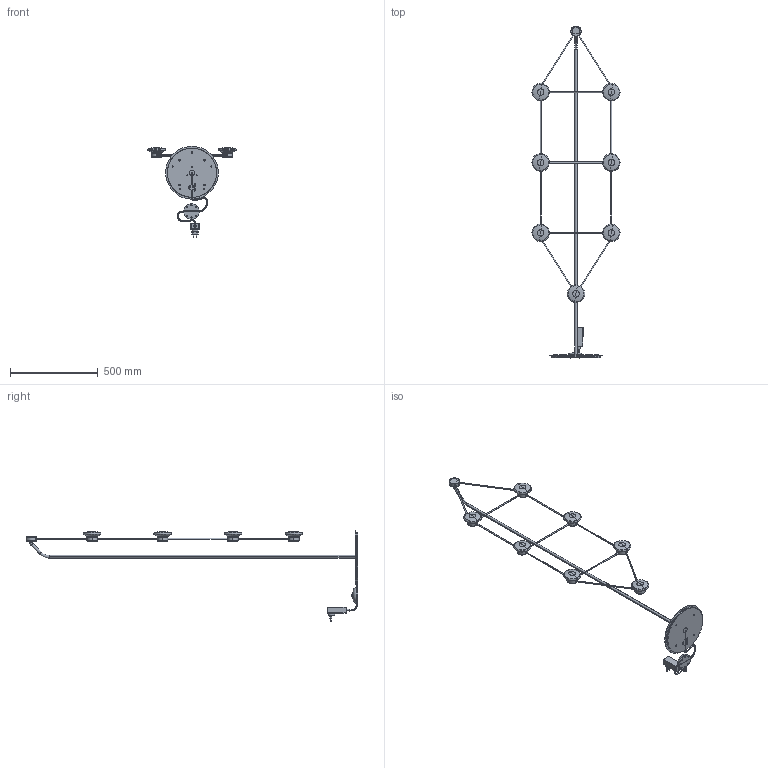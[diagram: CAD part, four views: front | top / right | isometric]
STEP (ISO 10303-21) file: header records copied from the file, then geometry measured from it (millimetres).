
FILE_DESCRIPTION (( 'STEP AP203' ), '1' );
FILE_NAME ('FBN08.LP01.AF01.R00 - Render.STEP', '2026-05-07T14:55:47', ( '' ), ( '' ), 'SwSTEP 2.0', 'SolidWorks 2025', '' );
FILE_SCHEMA (( 'CONFIG_CONTROL_DESIGN' ));
Length unit declared in the file: millimetre
Products named in the file (31): FBN08.LP01.C091.R00; FBN08.LS01.C004.R00; FBN08.LP01.C011.R00; FBN08.LP01.C001.R00; FBN08.LP01.AM03.R00; FBN08.LP01.C013.R00; FBN08.LP01.C003.R00; FBN08.LA01.C005.R00; FBN08.LP01.C010.R00; Modulo Led Star CV EA CL196-DB; FBN08.LP01.C004.R00; FBN08.LP01.AM90.R00; FBN08.LP01.AS01.R00; FBN08.LP01.C007.R00; FBN08.LS01.C091.R00; FBN08.LA01.C007.R00; FBN08.LP01.C005.R00; FBN08.LP01.C012.R00; FBN08.LP01.AS02.R00; FBN08.LP01.AM01.R00; Alimentatore a Muro 100-240V 60W - Relco; socket countersunk head screw_1_iso_ISO 10642 - M3 x 8 - 8C; FBN08.LS01.AM01.R00; FBN08.LP01.C090.R00; FBN08.LP01.C006.R00; FBN08.LP01.AF01.R00 - Render; FBN08.LP01.C002.R00; FBN08.LA01.AM04.R00; FBN08.LA01.AM05.R00; EA Pedaliera Dimmer DMPL_DIMMER TENSIONE 24V 5A NERO COD. DMPL1.T2.BS.4400X.----; FBN08.LP01.C008.R00
Assembly tree (46 placements, depth 4):
  FBN08.LP01.AF01.R00 - Render
    socket countersunk head screw_1_iso_ISO 10642 - M3 x 8 - 8C  x2
    FBN08.LP01.AS02.R00
      FBN08.LP01.C001.R00
      FBN08.LP01.C003.R00
    FBN08.LP01.C005.R00
    FBN08.LP01.AM01.R00  x6
      FBN08.LP01.C008.R00
      FBN08.LS01.AM01.R00
        FBN08.LS01.C004.R00
      FBN08.LP01.C006.R00
      Modulo Led Star CV EA CL196-DB
    FBN08.LA01.AM05.R00  x3
      FBN08.LA01.AM04.R00
        FBN08.LA01.C005.R00
        FBN08.LA01.C007.R00
    FBN08.LP01.AM03.R00
      FBN08.LP01.C007.R00
      FBN08.LS01.AM01.R00
        FBN08.LS01.C004.R00
      FBN08.LP01.C012.R00
      Modulo Led Star CV EA CL196-DB
    FBN08.LS01.C091.R00  x4
    FBN08.LP01.C002.R00
    FBN08.LP01.AS01.R00
      FBN08.LP01.C004.R00
    FBN08.LP01.C010.R00
    FBN08.LP01.C090.R00  x4
    FBN08.LP01.C011.R00
    FBN08.LP01.C013.R00
    FBN08.LP01.AM90.R00
      FBN08.LP01.C091.R00
      Alimentatore a Muro 100-240V 60W - Relco
      EA Pedaliera Dimmer DMPL_DIMMER TENSIONE 24V 5A NERO COD. DMPL1.T2.BS.4400X.----
Bounding box: 501.39 x 1886.5 x 518.96 mm (x, y, z)
Volume: 2212452 mm3; surface area: 1255461.1 mm2
Topology: 56 solids, 56 shells, 2209 faces, 5387 edges, 3427 vertices
Faces by surface type: plane 961, cylinder 828, cone 180, torus 173, sphere 42, bspline 25
Entity records: 29675 total; most frequent: CARTESIAN_POINT 8865, DIRECTION 3872, ORIENTED_EDGE 3356, EDGE_CURVE 1678, AXIS2_PLACEMENT_3D 1546, VERTEX_POINT 1063, EDGE_LOOP 845, CIRCLE 786
